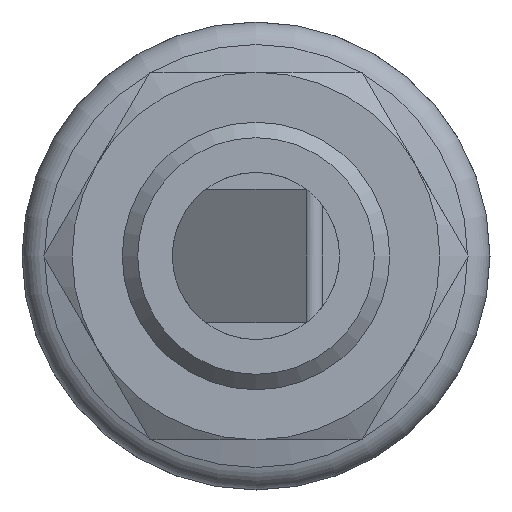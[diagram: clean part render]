
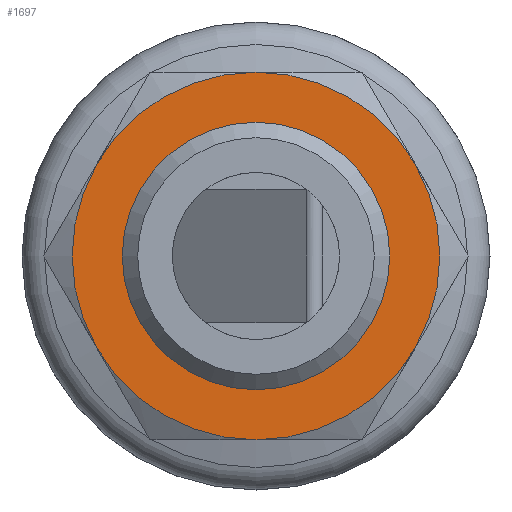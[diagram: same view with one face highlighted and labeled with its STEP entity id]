
A CAD part, front view. The second image highlights one B-rep face of the part: STEP entity #1697.
In plain terms, the highlighted planar face has unit normal (0, -1, 0).
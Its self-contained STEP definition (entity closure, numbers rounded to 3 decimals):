
#125=CIRCLE('',#1801,11.);
#126=CIRCLE('',#1803,11.);
#127=CIRCLE('',#1805,11.);
#128=CIRCLE('',#1807,11.);
#129=CIRCLE('',#1809,11.);
#130=CIRCLE('',#1811,11.);
#131=CIRCLE('',#1813,7.);
#226=ORIENTED_EDGE('',*,*,#515,.F.);
#227=ORIENTED_EDGE('',*,*,#510,.T.);
#228=ORIENTED_EDGE('',*,*,#508,.T.);
#229=ORIENTED_EDGE('',*,*,#504,.T.);
#230=ORIENTED_EDGE('',*,*,#501,.T.);
#231=ORIENTED_EDGE('',*,*,#499,.T.);
#232=ORIENTED_EDGE('',*,*,#513,.T.);
#499=EDGE_CURVE('',#640,#641,#125,.T.);
#501=EDGE_CURVE('',#643,#640,#126,.T.);
#504=EDGE_CURVE('',#645,#643,#127,.T.);
#508=EDGE_CURVE('',#647,#645,#128,.T.);
#510=EDGE_CURVE('',#649,#647,#129,.T.);
#513=EDGE_CURVE('',#641,#649,#130,.T.);
#515=EDGE_CURVE('',#651,#651,#131,.T.);
#640=VERTEX_POINT('',#2375);
#641=VERTEX_POINT('',#2380);
#643=VERTEX_POINT('',#2389);
#645=VERTEX_POINT('',#2401);
#647=VERTEX_POINT('',#2412);
#649=VERTEX_POINT('',#2425);
#651=VERTEX_POINT('',#2443);
#832=EDGE_LOOP('',(#226));
#833=EDGE_LOOP('',(#227,#228,#229,#230,#231,#232));
#954=FACE_BOUND('',#832,.T.);
#955=FACE_BOUND('',#833,.T.);
#1063=PLANE('',#1812);
#1697=ADVANCED_FACE('',(#954,#955),#1063,.F.);
#1801=AXIS2_PLACEMENT_3D('',#2381,#1986,#1987);
#1803=AXIS2_PLACEMENT_3D('',#2388,#1990,#1991);
#1805=AXIS2_PLACEMENT_3D('',#2400,#1994,#1995);
#1807=AXIS2_PLACEMENT_3D('',#2417,#1998,#1999);
#1809=AXIS2_PLACEMENT_3D('',#2424,#2002,#2003);
#1811=AXIS2_PLACEMENT_3D('',#2436,#2006,#2007);
#1812=AXIS2_PLACEMENT_3D('',#2441,#2008,#2009);
#1813=AXIS2_PLACEMENT_3D('',#2442,#2010,#2011);
#1986=DIRECTION('',(0.,-1.,0.));
#1987=DIRECTION('',(0.,0.,-1.));
#1990=DIRECTION('',(0.,-1.,0.));
#1991=DIRECTION('',(0.,0.,-1.));
#1994=DIRECTION('',(0.,-1.,0.));
#1995=DIRECTION('',(0.,0.,-1.));
#1998=DIRECTION('',(0.,-1.,0.));
#1999=DIRECTION('',(0.,0.,-1.));
#2002=DIRECTION('',(0.,-1.,0.));
#2003=DIRECTION('',(0.,0.,-1.));
#2006=DIRECTION('',(0.,-1.,0.));
#2007=DIRECTION('',(0.,0.,-1.));
#2008=DIRECTION('',(0.,1.,0.));
#2009=DIRECTION('',(0.,0.,1.));
#2010=DIRECTION('',(0.,-1.,0.));
#2011=DIRECTION('',(0.,0.,-1.));
#2375=CARTESIAN_POINT('',(-9.526,24.,5.5));
#2380=CARTESIAN_POINT('',(-9.526,24.,-5.5));
#2381=CARTESIAN_POINT('',(0.,24.,0.));
#2388=CARTESIAN_POINT('',(0.,24.,0.));
#2389=CARTESIAN_POINT('',(0.,24.,11.));
#2400=CARTESIAN_POINT('',(0.,24.,0.));
#2401=CARTESIAN_POINT('',(9.526,24.,5.5));
#2412=CARTESIAN_POINT('',(9.526,24.,-5.5));
#2417=CARTESIAN_POINT('',(0.,24.,0.));
#2424=CARTESIAN_POINT('',(0.,24.,0.));
#2425=CARTESIAN_POINT('',(0.,24.,-11.));
#2436=CARTESIAN_POINT('',(0.,24.,0.));
#2441=CARTESIAN_POINT('',(11.,24.,0.));
#2442=CARTESIAN_POINT('',(0.,24.,0.));
#2443=CARTESIAN_POINT('',(0.,24.,-7.));
